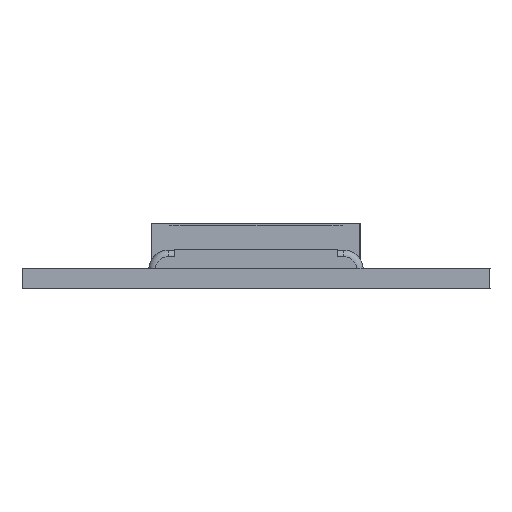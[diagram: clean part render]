
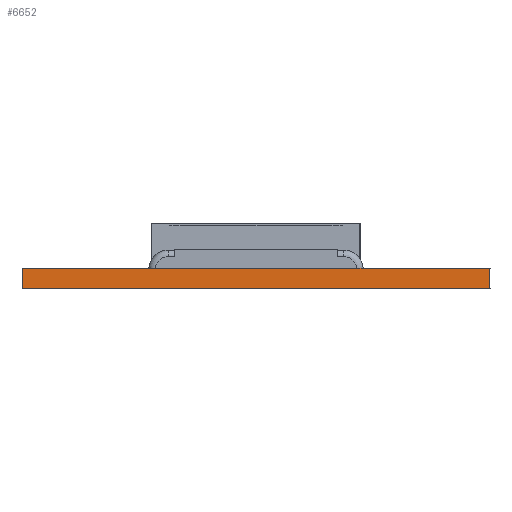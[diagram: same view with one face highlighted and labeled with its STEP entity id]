
A CAD part, left-side view. The second image highlights one B-rep face of the part: STEP entity #6652.
In plain terms, the highlighted planar face has unit normal (-1, 0, 0).
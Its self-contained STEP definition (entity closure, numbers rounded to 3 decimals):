
#40 = ORIENTED_EDGE ( 'NONE', *, *, #295, .F. ) ;
#93 = CARTESIAN_POINT ( 'NONE',  ( -8.33, 1.6, 0.3 ) ) ;
#186 = DIRECTION ( 'NONE',  ( 0., -1., 0. ) ) ;
#201 = VECTOR ( 'NONE', #2760, 1000. ) ;
#282 = VECTOR ( 'NONE', #5240, 1000. ) ;
#295 = EDGE_CURVE ( 'NONE', #4413, #387, #6608, .T. ) ;
#309 = VERTEX_POINT ( 'NONE', #517 ) ;
#387 = VERTEX_POINT ( 'NONE', #1644 ) ;
#481 = CARTESIAN_POINT ( 'NONE',  ( -8.33, 3.6, 0.31 ) ) ;
#501 = CARTESIAN_POINT ( 'NONE',  ( -8.33, -1.6, 0.31 ) ) ;
#517 = CARTESIAN_POINT ( 'NONE',  ( -8.33, -3.6, 0. ) ) ;
#552 = LINE ( 'NONE', #501, #201 ) ;
#567 = EDGE_CURVE ( 'NONE', #3953, #309, #5086, .T. ) ;
#646 = ORIENTED_EDGE ( 'NONE', *, *, #878, .F. ) ;
#690 = LINE ( 'NONE', #5050, #2018 ) ;
#766 = VERTEX_POINT ( 'NONE', #1407 ) ;
#786 = CARTESIAN_POINT ( 'NONE',  ( -8.33, -1.6, 0.3 ) ) ;
#878 = EDGE_CURVE ( 'NONE', #766, #4786, #552, .T. ) ;
#983 = VECTOR ( 'NONE', #3908, 1000. ) ;
#1141 = ORIENTED_EDGE ( 'NONE', *, *, #4123, .F. ) ;
#1147 = VECTOR ( 'NONE', #1783, 1000. ) ;
#1407 = CARTESIAN_POINT ( 'NONE',  ( -8.33, -1.6, 0.31 ) ) ;
#1644 = CARTESIAN_POINT ( 'NONE',  ( -8.33, 1.6, 0.31 ) ) ;
#1783 = DIRECTION ( 'NONE',  ( 0., -1., 0. ) ) ;
#1972 = DIRECTION ( 'NONE',  ( 0., 0., -1. ) ) ;
#2018 = VECTOR ( 'NONE', #2295, 1000. ) ;
#2040 = CARTESIAN_POINT ( 'NONE',  ( -8.33, 3.6, 0. ) ) ;
#2295 = DIRECTION ( 'NONE',  ( 0., 0., -1. ) ) ;
#2316 = VECTOR ( 'NONE', #6065, 1000. ) ;
#2355 = EDGE_CURVE ( 'NONE', #4413, #3953, #6268, .T. ) ;
#2503 = ORIENTED_EDGE ( 'NONE', *, *, #567, .T. ) ;
#2580 = EDGE_CURVE ( 'NONE', #4786, #309, #690, .T. ) ;
#2606 = CARTESIAN_POINT ( 'NONE',  ( -8.33, 3.6, 0.3 ) ) ;
#2646 = DIRECTION ( 'NONE',  ( 1., 0., 0. ) ) ;
#2665 = ORIENTED_EDGE ( 'NONE', *, *, #2355, .T. ) ;
#2760 = DIRECTION ( 'NONE',  ( 0., -1., 0. ) ) ;
#2772 = CARTESIAN_POINT ( 'NONE',  ( -8.33, 3.6, 0.31 ) ) ;
#2845 = ORIENTED_EDGE ( 'NONE', *, *, #2998, .T. ) ;
#2998 = EDGE_CURVE ( 'NONE', #766, #7127, #3366, .T. ) ;
#3366 = LINE ( 'NONE', #7119, #2316 ) ;
#3500 = CARTESIAN_POINT ( 'NONE',  ( -8.33, -3.6, 0.31 ) ) ;
#3657 = PLANE ( 'NONE',  #4222 ) ;
#3682 = ORIENTED_EDGE ( 'NONE', *, *, #3844, .F. ) ;
#3764 = VERTEX_POINT ( 'NONE', #93 ) ;
#3844 = EDGE_CURVE ( 'NONE', #387, #3764, #3971, .T. ) ;
#3908 = DIRECTION ( 'NONE',  ( 0., -1., 0. ) ) ;
#3953 = VERTEX_POINT ( 'NONE', #2040 ) ;
#3969 = CARTESIAN_POINT ( 'NONE',  ( -8.33, 3.6, 0. ) ) ;
#3971 = LINE ( 'NONE', #4694, #282 ) ;
#4123 = EDGE_CURVE ( 'NONE', #3764, #7127, #5776, .T. ) ;
#4199 = FACE_OUTER_BOUND ( 'NONE', #6810, .T. ) ;
#4222 = AXIS2_PLACEMENT_3D ( 'NONE', #2606, #2646, #5928 ) ;
#4413 = VERTEX_POINT ( 'NONE', #481 ) ;
#4694 = CARTESIAN_POINT ( 'NONE',  ( -8.33, 1.6, 0.31 ) ) ;
#4786 = VERTEX_POINT ( 'NONE', #3500 ) ;
#4893 = VECTOR ( 'NONE', #1972, 1000. ) ;
#5050 = CARTESIAN_POINT ( 'NONE',  ( -8.33, -3.6, 0.3 ) ) ;
#5086 = LINE ( 'NONE', #3969, #1147 ) ;
#5233 = CARTESIAN_POINT ( 'NONE',  ( -8.33, 3.6, 0.3 ) ) ;
#5240 = DIRECTION ( 'NONE',  ( 0., 0., -1. ) ) ;
#5770 = ORIENTED_EDGE ( 'NONE', *, *, #2580, .F. ) ;
#5776 = LINE ( 'NONE', #5233, #6508 ) ;
#5860 = CARTESIAN_POINT ( 'NONE',  ( -8.33, 3.6, 0.3 ) ) ;
#5928 = DIRECTION ( 'NONE',  ( 0., 0., -1. ) ) ;
#6065 = DIRECTION ( 'NONE',  ( 0., 0., -1. ) ) ;
#6268 = LINE ( 'NONE', #5860, #4893 ) ;
#6508 = VECTOR ( 'NONE', #186, 1000. ) ;
#6608 = LINE ( 'NONE', #2772, #983 ) ;
#6652 = ADVANCED_FACE ( 'NONE', ( #4199 ), #3657, .F. ) ;
#6810 = EDGE_LOOP ( 'NONE', ( #2503, #5770, #646, #2845, #1141, #3682, #40, #2665 ) ) ;
#7119 = CARTESIAN_POINT ( 'NONE',  ( -8.33, -1.6, 0.31 ) ) ;
#7127 = VERTEX_POINT ( 'NONE', #786 ) ;
